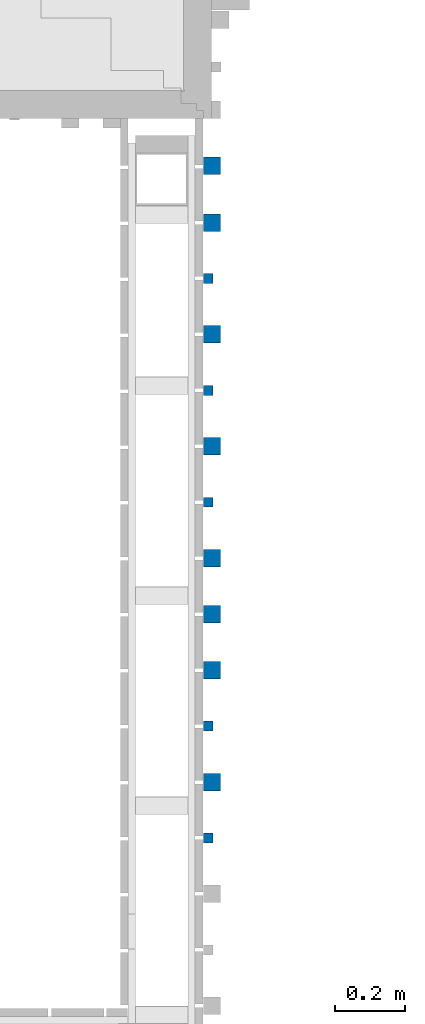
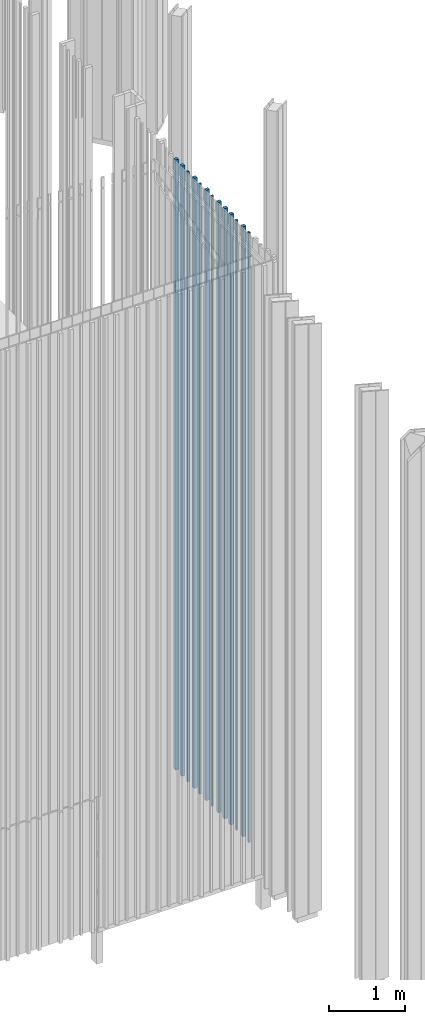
# One storey, part 17 of 390: 13 walls.
"""IFC2X3 building model written with IfcOpenShell, lengths in millimetres."""

from ifc_helpers import new_model, entity, si_unit, converted_unit, derived_unit, money_unit, direction, frame, origin_with_axes, origin_2d_with_axis, place, context, subcontext, project, spatial, rectangle, extrude, material, type_object, element, save


model = new_model("IFC2X3")

# Units and contexts
model_context = context("Model", 3, precision=1e-05, world=origin_with_axes(), true_north=direction((0.0, 1.0)))
body_context = subcontext(model_context, "Body", "Model", "MODEL_VIEW")
ifc_project = project(units=[si_unit("LENGTHUNIT", "METRE", prefix="MILLI"), si_unit("AREAUNIT", "SQUARE_METRE"), si_unit("VOLUMEUNIT", "CUBIC_METRE"), converted_unit("PLANEANGLEUNIT", "DEGREE", entity("IfcPlaneAngleMeasure", 0.0174532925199), si_unit("PLANEANGLEUNIT", "RADIAN"), dimensions=[0, 0, 0, 0, 0, 0, 0]), si_unit("SOLIDANGLEUNIT", "STERADIAN"), money_unit("EUR"), converted_unit("TIMEUNIT", "Year", entity("IfcTimeMeasure", 31556926.0), si_unit("TIMEUNIT", "SECOND"), dimensions=[0, 0, 1, 0, 0, 0, 0]), si_unit("MASSUNIT", "GRAM", prefix="KILO"), si_unit("THERMODYNAMICTEMPERATUREUNIT", "DEGREE_CELSIUS"), si_unit("LUMINOUSINTENSITYUNIT", "LUMEN"), si_unit("ENERGYUNIT", "JOULE", prefix="MEGA"), derived_unit("THERMALCONDUCTANCEUNIT", [(si_unit("POWERUNIT", "WATT"), 1), (si_unit("LENGTHUNIT", "METRE"), -1), (si_unit("THERMODYNAMICTEMPERATUREUNIT", "KELVIN"), -1)]), derived_unit("SPECIFICHEATCAPACITYUNIT", [(si_unit("ENERGYUNIT", "JOULE"), 1), (si_unit("MASSUNIT", "GRAM", prefix="KILO"), -1), (si_unit("THERMODYNAMICTEMPERATUREUNIT", "KELVIN"), -1)]), derived_unit("MASSDENSITYUNIT", [(si_unit("MASSUNIT", "GRAM", prefix="KILO"), 1), (si_unit("VOLUMEUNIT", "CUBIC_METRE"), -1)])], contexts=[model_context])

# Site, building, storey
site_placement = place(None, origin_with_axes())
site = spatial("IfcSite", under=ifc_project, at=site_placement, Name="Site", CompositionType="ELEMENT")
building_placement = place(site_placement, origin_with_axes())
building = spatial("IfcBuilding", under=site, at=building_placement, Name="Building", CompositionType="ELEMENT")
storey_placement = place(building_placement, origin_with_axes())
storey = spatial("IfcBuildingStorey", under=building, at=storey_placement, Name="1 korrus", CompositionType="ELEMENT", Elevation=0.0)

# Walls
ifc_material = material(Name="Site specified")
wall_type = type_object("IfcWallType", Name="Puitfassaadi ribistik", PredefinedType="NOTDEFINED")
for number, where, z_axis, x_axis, name in (
    (1, (139789.000029, 44005.0000099, 100.000000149), (0.0, 0.0, 1.0), (0.0, -1.0, 0.0), "Site specified"),
    (2, (139789.000079, 43685.0000099, 100.000000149), (0.0, 0.0, 1.0), (0.0, -1.0, 0.0), "Site specified"),
    (3, (139789.000029, 44325.0000099, 100.000000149), (0.0, 0.0, 1.0), (0.0, -1.0, 0.0), "Site specified"),
):
    element("IfcWall", number, at=place(storey_placement, frame(where, z_axis=z_axis, x_axis=x_axis)), inside=storey, type_object=wall_type, material=ifc_material, Name=name, context=body_context, shape_type="SweptSolid", body=[
        extrude(rectangle(XDim=50.0, YDim=50.0, at=origin_2d_with_axis()), origin_with_axes(), (0.0, 0.0, 1.0), 9764.99999985),
    ])
wall_1_placement = place(storey_placement, frame((139778.000029, 44485.0000099, 100.000000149), z_axis=(0.0, 0.0, 1.0), x_axis=(0.0, -1.0, 0.0)))
element("IfcWall", 4, at=wall_1_placement, inside=storey, type_object=wall_type, material=ifc_material, Name="Site specified", context=body_context, shape_type="SweptSolid", body=[
    extrude(rectangle(XDim=28.0, YDim=28.0, at=origin_2d_with_axis()), origin_with_axes(), (0.0, 0.0, 1.0), 9764.99999985),
])
wall_2_placement = place(storey_placement, frame((139789.000086, 43365.0000099, 100.000000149), z_axis=(0.0, 0.0, 1.0), x_axis=(0.0, -1.0, 0.0)))
element("IfcWall", 5, at=wall_2_placement, inside=storey, type_object=wall_type, material=ifc_material, Name="Site specified", context=body_context, shape_type="SweptSolid", body=[
    extrude(rectangle(XDim=50.0, YDim=50.0, at=origin_2d_with_axis()), origin_with_axes(), (0.0, 0.0, 1.0), 9764.99999985),
])
for number, where, z_axis, x_axis, name in (
    (6, (139778.000022, 44805.0000099, 100.000000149), (0.0, 0.0, 1.0), (0.0, -1.0, 0.0), "Site specified"),
    (7, (139778.000029, 43525.0000099, 100.000000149), (0.0, 0.0, 1.0), (0.0, -1.0, 0.0), "Site specified"),
):
    element("IfcWall", number, at=place(storey_placement, frame(where, z_axis=z_axis, x_axis=x_axis)), inside=storey, type_object=wall_type, material=ifc_material, Name=name, context=body_context, shape_type="SweptSolid", body=[
        extrude(rectangle(XDim=28.0, YDim=28.0, at=origin_2d_with_axis()), origin_with_axes(), (0.0, 0.0, 1.0), 9764.99999985),
    ])
wall_3_placement = place(storey_placement, frame((139789.000029, 43845.0000099, 100.000000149), z_axis=(0.0, 0.0, 1.0), x_axis=(0.0, -1.0, 0.0)))
element("IfcWall", 8, at=wall_3_placement, inside=storey, type_object=wall_type, material=ifc_material, Name="Site specified", context=body_context, shape_type="SweptSolid", body=[
    extrude(rectangle(XDim=50.0, YDim=50.0, at=origin_2d_with_axis()), origin_with_axes(), (0.0, 0.0, 1.0), 9764.99999985),
])
for number, where, z_axis, x_axis, name in (
    (9, (139778.000037, 43205.0000099, 100.000000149), (0.0, 0.0, 1.0), (0.0, -1.0, 0.0), "Site specified"),
    (10, (139778.000029, 44165.0000099, 100.000000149), (0.0, 0.0, 1.0), (0.0, -1.0, 0.0), "Site specified"),
):
    element("IfcWall", number, at=place(storey_placement, frame(where, z_axis=z_axis, x_axis=x_axis)), inside=storey, type_object=wall_type, material=ifc_material, Name=name, context=body_context, shape_type="SweptSolid", body=[
        extrude(rectangle(XDim=28.0, YDim=28.0, at=origin_2d_with_axis()), origin_with_axes(), (0.0, 0.0, 1.0), 9764.99999985),
    ])
for number, where, z_axis, x_axis, name in (
    (11, (139789.000079, 44645.0000099, 100.000000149), (0.0, 0.0, 1.0), (0.0, -1.0, 0.0), "Site specified"),
    (12, (139789.000071, 44965.0000099, 100.000000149), (0.0, 0.0, 1.0), (0.0, -1.0, 0.0), "Site specified"),
    (13, (139789.000071, 45127.0000099, 100.000000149), (0.0, 0.0, 1.0), (0.0, -1.0, 0.0), "Site specified"),
):
    element("IfcWall", number, at=place(storey_placement, frame(where, z_axis=z_axis, x_axis=x_axis)), inside=storey, type_object=wall_type, material=ifc_material, Name=name, context=body_context, shape_type="SweptSolid", body=[
        extrude(rectangle(XDim=50.0, YDim=50.0, at=origin_2d_with_axis()), origin_with_axes(), (0.0, 0.0, 1.0), 9764.99999985),
    ])

save(model, "model.ifc")
